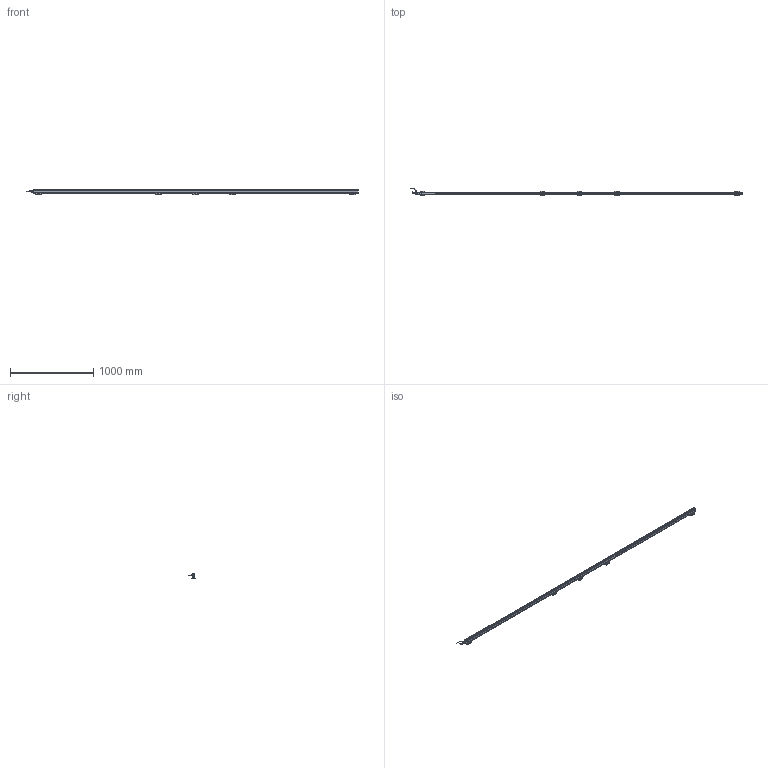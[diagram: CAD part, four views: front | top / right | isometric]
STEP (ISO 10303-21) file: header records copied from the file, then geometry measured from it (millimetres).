
FILE_DESCRIPTION(('Bauteilbeschreibung','HiCAD-Model','HiCAD-STEP-TRANSLATION','Bauteilbeschreibung'),'2;1');
FILE_NAME('PERFORMAXIQEASY_3810-3900_3D.STP','2014-03-05T13:29:06+00:00',('Konstrukteur'),('Konstrukteur Firma GmbH'),' HiCAD 2011, Step 1600.0 ','HiCAD 2011','confidential');
FILE_SCHEMA(('AUTOMOTIVE_DESIGN { 1 2 10303 214 0 1 1 1 }'));
Products named in the file (51): PERFORMAXIQEASY_3810_3900_3D; A_PERFORMAX IQ EASY 3810_3900; A_PERFORMAX IQ EASY SPEED; A_CAP DE; A_CAP CE_5; LED_2C_3MM; LED02C03MM; A519020315_CONNECTOR APPLIANCE; A_INSERT; A_CONTACTS; A_HOUSING; A_PROFILE; A_POTTING; PIN; PIN0; A532000100_BRACKET BARS_ MOUNT; A_SIDE PIECE; A0SIDE0PIECE; A_BRACKET SMALL; A_SLIDE PIECE; A5320001000BRACKET0BARS00MOUNT; A0SIDE0PIECE0; A0SIDE0PIECE1; A0BRACKET0SMALL; A0SLIDE0PIECE; A5320001000BRACKET0BARS00MOUNT0; A0SIDE0PIECE2; A0SIDE0PIECE3; A0BRACKET0SMALL0; A0SLIDE0PIECE0; A0SIDE0PIECE4; A0SIDE0PIECE5; A0BRACKET0SMALL1; A0SLIDE0PIECE1; A0SIDE0PIECE6; A0SIDE0PIECE7; A0BRACKET0SMALL2; A0SLIDE0PIECE2; A_CONNECTOR STRAIGHT; EXTRUDED SOLID_0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
Assembly tree (50 placements, depth 5):
  PERFORMAXIQEASY_3810_3900_3D
    A_PERFORMAX IQ EASY 3810_3900
      A_PERFORMAX IQ EASY SPEED
        A_CAP DE
        A_CAP CE_5
        LED_2C_3MM
        LED02C03MM
        A519020315_CONNECTOR APPLIANCE
          A_INSERT
          A_CONTACTS
          A_HOUSING
        A_PROFILE
        A_POTTING
        PIN
        PIN0
      A532000100_BRACKET BARS_ MOUNT
        A_SIDE PIECE
        A0SIDE0PIECE
        A_BRACKET SMALL
        A_SLIDE PIECE
      A5320001000BRACKET0BARS00MOUNT
        A0SIDE0PIECE0
        A0SIDE0PIECE1
        A0BRACKET0SMALL
        A0SLIDE0PIECE
      A5320001000BRACKET0BARS00MOUNT0
        A0SIDE0PIECE2
        A0SIDE0PIECE3
        A0BRACKET0SMALL0
        A0SLIDE0PIECE0
      A5320001000BRACKET0BARS00MOUNT0
        A0SIDE0PIECE4
        A0SIDE0PIECE5
        A0BRACKET0SMALL1
        A0SLIDE0PIECE1
      A5320001000BRACKET0BARS00MOUNT0
        A0SIDE0PIECE6
        A0SIDE0PIECE7
        A0BRACKET0SMALL2
        A0SLIDE0PIECE2
      A_CONNECTOR STRAIGHT
        EXTRUDED SOLID_0
        DRAAD GEBOGEN
        REVOLVED SOLID_1
        REVOLVED SOLID_3
      A_CONNECTOR ANGLED
        REVOLVED0SOLID01
        EXTRUDED0SOLID00
        C_EDGE SWEEP_0
        REVOLVED SOLID_2
        REVOLVED0SOLID03
Bounding box: 3977.89 x 84.16 x 63.13 mm (x, y, z)
Volume: 3994668.7 mm3; surface area: 955005.9 mm2
Topology: 45 solids, 45 shells, 4215 faces, 10820 edges, 6422 vertices
Faces by surface type: cylinder 1797, plane 1597, sphere 277, torus 252, bspline 208, cone 84
Full cylindrical faces by diameter (mm): 0.8 x10, 1 x5, 2.387 x10, 3 x23, 3.1 x1, 4.2 x2, 5 x4, 5.5 x25, 8 x2, 8.2 x1, 8.4 x2, 8.945 x1, 9 x2, 10.2 x1, 10.5 x3, 11 x1, 12 x3, 12.8 x1, 13.8 x4, 14.5 x3
Entity records: 195163 total; most frequent: CARTESIAN_POINT 45850, DIRECTION 20961, ORIENTED_EDGE 20534, EDGE_CURVE 10267, COLOUR_RGB 9750, PRESENTATION_STYLE_ASSIGNMENT 9750, OVER_RIDING_STYLED_ITEM 9710, CURVE_STYLE 9705
